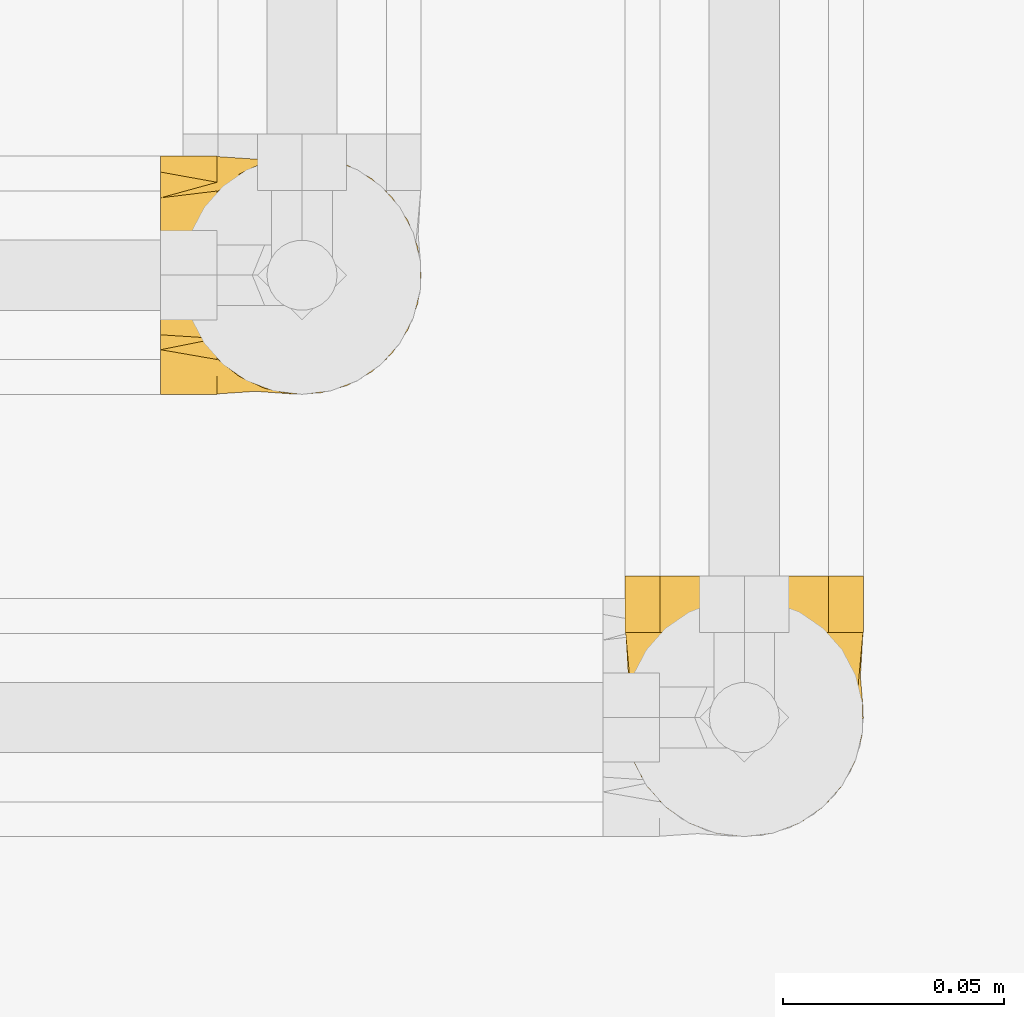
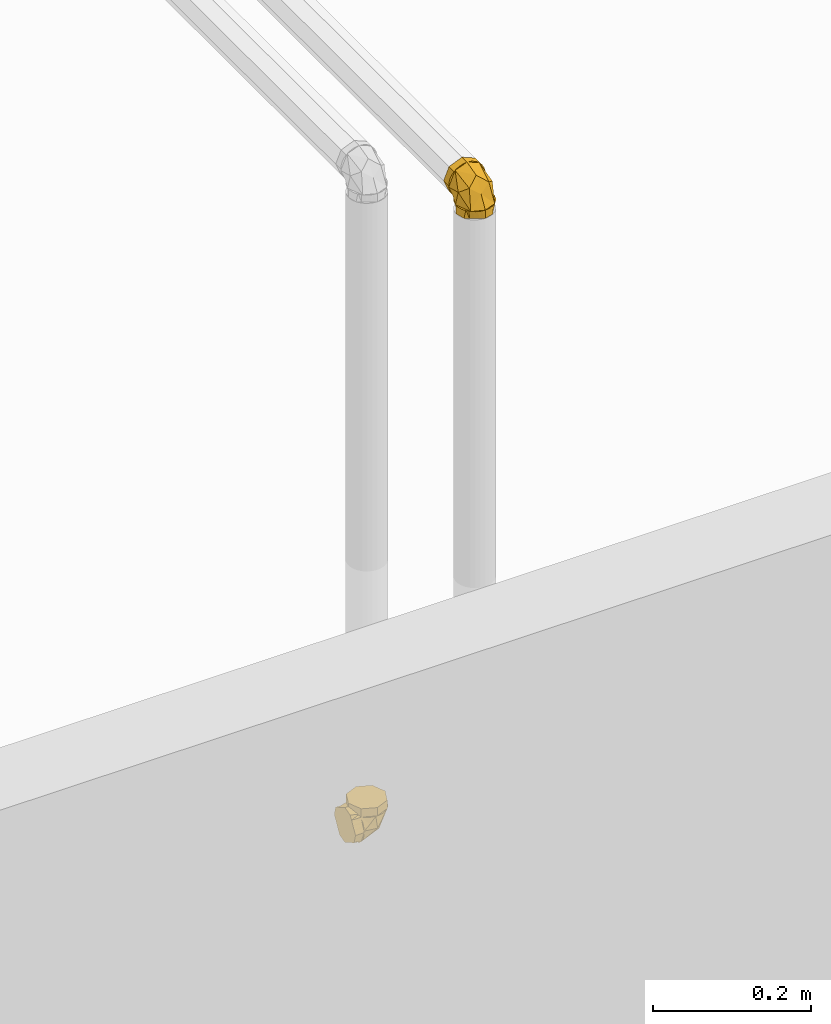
# One storey, part 294 of 652: 2 coverings.
"""IFC2X3 building model written with IfcOpenShell, lengths in millimetres."""

from ifc_helpers import new_model, entity, si_unit, converted_unit, direction, frame, origin, place, context, subcontext, project, spatial, face_set, surface_model, material, type_object, element, save


model = new_model("IFC2X3")

# Units and contexts
model_context = context("Model", 3, precision=0.01, world=frame((0.0, 0.0, 308426.39999999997)), true_north=direction((6.123233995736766e-17, 1.0)))
plan_context = context("Plan", 3, precision=0.01, world=frame((0.0, 0.0, 308426.39999999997)), true_north=direction((6.123233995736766e-17, 1.0)))
body_context = subcontext(model_context, "Body", "Model", "MODEL_VIEW")
ifc_project = project(units=[si_unit("LENGTHUNIT", "METRE", prefix="MILLI"), si_unit("AREAUNIT", "SQUARE_METRE"), si_unit("VOLUMEUNIT", "CUBIC_METRE"), converted_unit("PLANEANGLEUNIT", "DEGREE", entity("IfcPlaneAngleMeasure", 0.017453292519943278), si_unit("PLANEANGLEUNIT", "RADIAN"), dimensions=[0, 0, 0, 0, 0, 0, 0])], contexts=[model_context, plan_context])

# Site, building, storey
site_placement = place(None, origin())
site = spatial("IfcSite", under=ifc_project, at=site_placement, Name="Default", CompositionType="ELEMENT")
building_placement = place(site_placement, origin())
building = spatial("IfcBuilding", under=site, at=building_placement, CompositionType="ELEMENT")
storey_placement = place(building_placement, frame((0.0, 0.0, 1730.6999999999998)))
storey = spatial("IfcBuildingStorey", under=building, at=storey_placement, Name="EG_Produktion_FFB", CompositionType="ELEMENT", Elevation=1730.6999999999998)

# Coverings
ifc_material = material(Name="Dämmung - Armaflex-Schlauch")
covering_type = type_object("IfcCoveringType", Name="Rohrdämmung außen:Armaflex-Schlauch", PredefinedType="INSULATION")
covering_1_placement = place(storey_placement, frame((35468.01624999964, 36553.503785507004, 2671.46722776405)))
element("IfcCovering", 1, at=covering_1_placement, inside=storey, type_object=covering_type, material=ifc_material, Name="Rohrdämmung außen:Armaflex-Schlauch", ObjectType="Rohrdämmung außen:Armaflex-Schlauch", PredefinedType="INSULATION", context=body_context, shape_type="SurfaceModel", body=[
    surface_model("IfcFaceBasedSurfaceModel", [(12.766250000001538, 9.65642195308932, 47.750272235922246), (17.72428799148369, 5.678961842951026, 47.750272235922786), (23.476279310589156, 2.973980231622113, 47.750272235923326), (29.701958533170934, 1.6920879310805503, 47.75027223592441), (36.05468574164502, 1.9046594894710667, 47.75027223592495), (42.18074710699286, 3.5998591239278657, 47.75027223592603), (47.73904933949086, 6.683299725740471, 47.75027223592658), (52.42011143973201, 10.983298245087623, 47.75027223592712), (55.9632963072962, 16.26043484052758, 47.75027223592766), (58.17132276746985, 22.220883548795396, 47.75027223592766), (58.92125000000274, 28.532772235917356, 47.75027223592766), (58.17132276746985, 34.84466092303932, 47.75027223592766), (55.9632963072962, 40.80510963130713, 47.75027223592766), (52.42011143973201, 46.08224622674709, 47.75027223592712), (47.73904933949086, 50.38224474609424, 47.75027223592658), (42.18074710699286, 53.46568534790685, 47.75027223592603), (36.05468574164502, 55.16088498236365, 47.75027223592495), (29.701958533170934, 55.37345654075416, 47.75027223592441), (23.476279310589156, 54.0915642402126, 47.750272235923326), (17.72428799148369, 51.38658262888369, 47.750272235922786), (12.766250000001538, 47.40912251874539, 47.750272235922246), (12.766250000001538, 51.38658262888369, 42.79223424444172), (12.766250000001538, 54.0915642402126, 37.04024292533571), (12.766250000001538, 55.37345654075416, 30.81456370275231), (12.766250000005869, 55.16088498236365, 24.46183649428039), (12.766250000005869, 53.46568534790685, 18.33577512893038), (12.766250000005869, 50.38224474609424, 12.777472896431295), (12.766250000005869, 46.08224622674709, 8.096410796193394), (12.766250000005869, 40.80510963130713, 4.553225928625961), (12.766250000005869, 34.84466092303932, 2.3451994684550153), (12.766250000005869, 28.532772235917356, 1.5952722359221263), (12.766250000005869, 22.220883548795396, 2.3451994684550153), (12.766250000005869, 16.26043484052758, 4.553225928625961), (12.766250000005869, 10.983298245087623, 8.096410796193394), (12.766250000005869, 6.683299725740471, 12.777472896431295), (12.766250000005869, 3.5998591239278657, 18.33577512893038), (12.766250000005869, 1.9046594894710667, 24.46183649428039), (12.766250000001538, 1.6920879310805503, 30.81456370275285), (12.766250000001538, 2.973980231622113, 37.04024292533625), (12.766250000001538, 5.678961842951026, 42.79223424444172), (21.447745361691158, 2.2765184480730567, 37.80740068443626), (52.73653320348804, 28.533055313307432, 24.672737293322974), (33.565610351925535, 3.599693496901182, 26.951086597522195), (41.06050170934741, 6.336735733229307, 47.750398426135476), (31.030881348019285, 28.533055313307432, 12.139781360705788), (41.84184936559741, 14.285087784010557, 17.332487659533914), (12.766879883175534, 6.336735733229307, 19.45561388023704), (41.84184936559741, 42.78102284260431, 17.332487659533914), (33.565610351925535, 53.46641712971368, 26.951086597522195), (21.447745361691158, 54.78959217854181, 37.80740068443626), (12.766879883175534, 50.72704945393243, 19.45561388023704), (41.06050170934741, 50.72704945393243, 47.750398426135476), (58.92125000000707, 28.532772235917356, 60.5165222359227), (56.94879722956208, 33.29469446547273, 60.51652223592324), (54.976344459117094, 38.05661669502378, 60.51652223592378), (53.003891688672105, 42.818538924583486, 60.51652223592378), (51.03143891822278, 47.5804611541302, 60.51652223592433), (46.26951668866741, 49.552913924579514, 60.51652223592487), (41.50759445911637, 51.5253666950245, 60.51652223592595), (36.74567222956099, 53.497819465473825, 60.51652223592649), (31.983750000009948, 55.47027223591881, 60.516522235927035), (27.22182777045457, 53.497819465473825, 60.516522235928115), (22.459905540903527, 51.5253666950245, 60.516522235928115), (17.697983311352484, 49.552913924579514, 60.516522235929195), (12.936061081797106, 47.5804611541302, 60.51652223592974), (10.963608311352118, 42.81853892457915, 60.51652223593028), (8.991155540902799, 38.05661669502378, 60.51652223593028), (7.018702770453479, 33.29469446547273, 60.51652223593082), (5.046250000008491, 28.532772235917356, 60.51652223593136), (7.018702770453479, 23.770850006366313, 60.51652223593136), (8.991155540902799, 19.008927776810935, 60.51652223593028), (10.963608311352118, 14.247005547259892, 60.51652223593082), (12.936061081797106, 9.485083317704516, 60.51652223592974), (17.697983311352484, 7.512630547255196, 60.516522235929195), (22.459905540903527, 5.540177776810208, 60.516522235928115), (27.22182777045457, 3.567725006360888, 60.516522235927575), (31.983750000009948, 1.5952722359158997, 60.516522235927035), (36.74567222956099, 3.5677250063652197, 60.51652223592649), (41.50759445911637, 5.540177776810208, 60.51652223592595), (46.26951668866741, 7.512630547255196, 60.51652223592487), (51.03143891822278, 9.485083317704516, 60.51652223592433), (53.00389168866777, 14.247005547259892, 60.51652223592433), (54.976344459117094, 19.008927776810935, 60.51652223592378), (56.948797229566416, 23.77085000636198, 60.5165222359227), (58.92125000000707, 28.532772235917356, 47.75027223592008), (56.94879722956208, 23.770850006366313, 47.750272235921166), (54.976344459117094, 19.008927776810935, 47.750272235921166), (53.00389168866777, 14.24700554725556, 47.750272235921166), (51.03143891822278, 9.485083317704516, 47.750272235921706), (45.26304951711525, 7.095738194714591, 47.750272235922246), (39.49466011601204, 4.706393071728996, 47.750272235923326), (31.983750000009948, 1.5952722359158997, 47.75027223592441), (27.22182777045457, 3.567725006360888, 47.75027223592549), (22.459905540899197, 5.540177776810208, 47.75027223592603), (17.69798331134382, 7.512630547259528, 47.75027223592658), (12.936061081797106, 9.485083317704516, 47.75027223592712), (10.546715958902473, 15.253472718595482, 47.7502722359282), (8.157370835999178, 21.021862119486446, 47.7502722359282), (5.046250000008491, 28.532772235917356, 47.75027223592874), (7.01870277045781, 33.2946944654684, 47.75027223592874), (8.991155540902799, 38.05661669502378, 47.7502722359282), (10.963608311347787, 42.81853892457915, 47.75027223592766), (12.936061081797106, 47.5804611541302, 47.75027223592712), (18.704450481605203, 49.96980627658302, 47.75027223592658), (24.472839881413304, 52.359151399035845, 47.75027223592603), (31.983750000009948, 55.47027223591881, 47.75027223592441), (36.74567222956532, 53.497819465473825, 47.75027223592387), (41.50759445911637, 51.5253666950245, 47.750272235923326), (46.26951668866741, 49.552913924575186, 47.750272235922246), (51.03143891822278, 47.5804611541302, 47.750272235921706), (53.420784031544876, 41.81207177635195, 47.750272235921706), (55.810129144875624, 36.0436823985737, 47.750272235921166), (0.0, 28.532772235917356, 1.5952722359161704), (0.0, 22.700632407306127, 4.962459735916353), (0.0, 16.868492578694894, 8.329647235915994), (0.0, 11.036352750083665, 11.696834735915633), (0.0, 5.204212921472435, 15.064022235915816), (0.0, 3.3997425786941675, 21.798397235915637), (0.0, 1.5952722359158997, 28.532772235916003), (0.0, 4.962459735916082, 34.36491206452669), (0.0, 8.329647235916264, 40.19705189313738), (0.0, 11.696834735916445, 46.02919172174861), (0.0, 15.064022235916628, 51.861331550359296), (0.0, 21.79839723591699, 53.66580189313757), (0.0, 28.532772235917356, 55.470272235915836), (0.0, 34.36491206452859, 52.10308473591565), (0.0, 40.197051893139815, 48.73589723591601), (0.0, 46.02919172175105, 45.36870973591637), (0.0, 51.86133155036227, 42.00152223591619), (0.0, 53.66580189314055, 35.26714723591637), (0.0, 55.47027223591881, 28.532772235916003), (0.0, 52.10308473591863, 22.700632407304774), (0.0, 48.73589723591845, 16.868492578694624), (0.0, 45.368709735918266, 11.036352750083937), (0.0, 42.00152223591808, 5.204212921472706), (0.0, 35.26714723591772, 3.3997425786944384), (12.766250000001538, 28.532772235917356, 1.5952722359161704), (12.766250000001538, 33.29469446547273, 3.567725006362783), (12.766250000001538, 38.05661669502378, 5.540177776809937), (12.766249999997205, 42.81853892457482, 7.512630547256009), (12.766250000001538, 47.5804611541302, 9.485083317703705), (12.766250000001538, 49.552913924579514, 14.247005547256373), (12.766250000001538, 51.5253666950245, 19.008927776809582), (12.766250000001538, 53.497819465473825, 23.770850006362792), (12.766250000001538, 55.47027223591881, 28.532772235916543), (12.766250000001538, 53.497819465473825, 33.29469446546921), (12.766250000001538, 51.5253666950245, 38.05661669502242), (12.766250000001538, 49.552913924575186, 42.818538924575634), (12.766250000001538, 47.5804611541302, 47.58046115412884), (12.766250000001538, 42.81853892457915, 49.552913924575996), (12.766250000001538, 38.05661669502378, 51.525366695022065), (12.766250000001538, 33.29469446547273, 53.49781946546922), (12.766250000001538, 28.532772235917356, 55.470272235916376), (12.766250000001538, 23.77085000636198, 53.49781946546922), (12.766250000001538, 19.008927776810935, 51.525366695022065), (12.766250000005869, 14.247005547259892, 49.552913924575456), (12.766250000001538, 9.485083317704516, 47.58046115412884), (12.766250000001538, 7.512630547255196, 42.818538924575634), (12.766250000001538, 5.540177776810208, 38.05661669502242), (12.766250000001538, 3.5677250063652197, 33.29469446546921), (12.766250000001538, 1.5952722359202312, 28.532772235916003), (12.766250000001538, 3.567725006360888, 23.770850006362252), (12.766250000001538, 5.540177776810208, 19.008927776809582), (12.766249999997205, 7.512630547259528, 14.247005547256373), (12.766250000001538, 9.485083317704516, 9.485083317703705), (12.766250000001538, 14.247005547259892, 7.51263054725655), (12.766250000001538, 19.008927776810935, 5.540177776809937), (12.766249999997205, 23.77085000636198, 3.567725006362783)], [face_set([[[0, 1, 2, 3, 4, 5, 6, 7, 8, 9, 10, 11, 12, 13, 14, 15, 16, 17, 18, 19]], [[20, 21, 22, 23, 24, 25, 26, 27, 28, 29, 30, 31, 32, 33, 34, 35, 36, 37, 38, 39]], [[0, 40, 3]], [[10, 7, 41]], [[37, 42, 40]], [[42, 7, 43]], [[37, 40, 0]], [[3, 40, 42]], [[44, 41, 45]], [[7, 45, 41]], [[33, 30, 44]], [[44, 45, 33]], [[42, 33, 45]], [[42, 37, 46]], [[7, 42, 45]], [[43, 3, 42]], [[46, 33, 42]], [[13, 10, 41]], [[27, 47, 44]], [[44, 30, 27]], [[48, 47, 27]], [[49, 48, 23]], [[48, 50, 23]], [[44, 47, 41]], [[20, 49, 23]], [[47, 48, 13]], [[17, 49, 20]], [[41, 47, 13]], [[48, 17, 51]], [[48, 27, 50]], [[17, 48, 49]], [[51, 13, 48]]]), face_set([[[52, 53, 54, 55, 56, 57, 58, 59, 60, 61, 62, 63, 64, 65, 66, 67, 68, 69, 70, 71, 72, 73, 74, 75, 76, 77, 78, 79, 80, 81, 82, 83]], [[84, 85, 86, 87, 88, 89, 90, 91, 92, 93, 94, 95, 96, 97, 98, 99, 100, 101, 102, 103, 104, 105, 106, 107, 108, 109, 110, 111]], [[111, 110, 109, 56, 55, 54, 53, 52, 84]], [[56, 109, 108, 107, 106, 105, 60, 59, 58, 57]], [[104, 103, 102, 64, 63, 62, 61, 60, 105]], [[64, 102, 101, 100, 99, 98, 68, 67, 66, 65]], [[97, 96, 95, 72, 71, 70, 69, 68, 98]], [[72, 95, 94, 93, 92, 91, 76, 75, 74, 73]], [[90, 89, 88, 80, 79, 78, 77, 76, 91]], [[80, 88, 87, 86, 85, 84, 52, 83, 82, 81]]]), face_set([[[112, 113, 114, 115, 116, 117, 118, 119, 120, 121, 122, 123, 124, 125, 126, 127, 128, 129, 130, 131, 132, 133, 134, 135]], [[136, 137, 138, 139, 140, 141, 142, 143, 144, 145, 146, 147, 148, 149, 150, 151, 152, 153, 154, 155, 156, 157, 158, 159, 160, 161, 162, 163, 164, 165, 166, 167]], [[155, 121, 156]], [[118, 159, 119]], [[159, 158, 119]], [[123, 154, 153]], [[153, 152, 124]], [[121, 155, 122]], [[120, 158, 157]], [[118, 160, 159]], [[158, 120, 119]], [[124, 123, 153]], [[157, 156, 121]], [[155, 154, 122]], [[123, 122, 154]], [[120, 157, 121]], [[163, 115, 164]], [[112, 167, 113]], [[167, 166, 113]], [[117, 162, 161]], [[161, 160, 118]], [[115, 163, 116]], [[114, 166, 165]], [[112, 136, 167]], [[166, 114, 113]], [[118, 117, 161]], [[165, 164, 115]], [[163, 162, 116]], [[117, 116, 162]], [[114, 165, 115]], [[139, 133, 140]], [[130, 143, 131]], [[143, 142, 131]], [[135, 138, 137]], [[137, 136, 112]], [[133, 139, 134]], [[132, 142, 141]], [[130, 144, 143]], [[142, 132, 131]], [[112, 135, 137]], [[141, 140, 133]], [[139, 138, 134]], [[135, 134, 138]], [[132, 141, 133]], [[147, 127, 148]], [[124, 151, 125]], [[151, 150, 125]], [[129, 146, 145]], [[145, 144, 130]], [[127, 147, 128]], [[126, 150, 149]], [[124, 152, 151]], [[150, 126, 125]], [[130, 129, 145]], [[149, 148, 127]], [[147, 146, 128]], [[129, 128, 146]], [[126, 149, 127]]])]),
])
covering_2_placement = place(storey_placement, frame((35571.46722776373, 36453.50378550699, 3668.016249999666)))
element("IfcCovering", 2, at=covering_2_placement, inside=storey, type_object=covering_type, material=ifc_material, Name="Rohrdämmung außen:Armaflex-Schlauch", ObjectType="Rohrdämmung außen:Armaflex-Schlauch", PredefinedType="INSULATION", context=body_context, shape_type="SurfaceModel", body=[
    surface_model("IfcFaceBasedSurfaceModel", [(9.65642195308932, 47.75027223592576, 12.766249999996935), (51.38658262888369, 47.75027223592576, 17.724287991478), (54.0915642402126, 47.75027223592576, 23.47627931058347), (55.37345654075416, 47.75027223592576, 29.70195853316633), (55.16088498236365, 47.7502722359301, 36.05468574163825), (53.46568534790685, 47.7502722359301, 42.180747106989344), (50.38224474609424, 47.7502722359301, 47.739049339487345), (46.08224622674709, 47.7502722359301, 52.42011143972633), (40.80510963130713, 47.7502722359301, 55.96329630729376), (34.84466092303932, 47.7502722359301, 58.17132276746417), (28.532772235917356, 47.7502722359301, 58.92124999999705), (22.220883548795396, 47.7502722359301, 58.17132276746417), (16.26043484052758, 47.7502722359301, 55.96329630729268), (10.983298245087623, 47.7502722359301, 52.42011143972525), (6.683299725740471, 47.7502722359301, 47.739049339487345), (3.5998591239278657, 47.7502722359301, 42.180747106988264), (1.9046594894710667, 47.7502722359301, 36.05468574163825), (1.6920879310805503, 47.75027223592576, 29.70195853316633), (2.973980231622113, 47.75027223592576, 23.47627931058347), (5.678961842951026, 47.75027223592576, 17.72428799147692), (47.40912251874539, 47.75027223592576, 12.766249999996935), (51.38658262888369, 42.79223424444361, 12.766249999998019), (54.0915642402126, 37.04024292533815, 12.766249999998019), (55.37345654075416, 30.81456370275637, 12.7662499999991), (55.16088498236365, 24.461836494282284, 12.766250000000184), (53.46568534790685, 18.33577512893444, 12.766250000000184), (50.38224474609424, 12.77747289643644, 12.766250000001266), (46.08224622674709, 8.09641079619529, 12.766250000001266), (40.80510963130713, 4.553225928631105, 12.76625000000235), (34.84466092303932, 2.3451994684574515, 12.76625000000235), (28.532772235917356, 1.5952722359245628, 12.76625000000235), (22.220883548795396, 2.3451994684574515, 12.76625000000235), (16.26043484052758, 4.553225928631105, 12.76625000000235), (10.983298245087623, 8.09641079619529, 12.766250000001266), (6.683299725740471, 12.77747289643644, 12.766250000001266), (3.5998591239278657, 18.33577512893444, 12.766250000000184), (1.9046594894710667, 24.461836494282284, 12.766250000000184), (1.6920879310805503, 30.81456370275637, 12.7662499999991), (2.973980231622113, 37.04024292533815, 12.766249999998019), (5.678961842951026, 42.79223424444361, 12.766249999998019), (2.2753442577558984, 37.80836048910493, 21.447095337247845), (28.531881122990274, 24.671953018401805, 52.73762725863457), (6.337886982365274, 47.7496141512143, 41.06101440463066), (3.600844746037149, 26.950883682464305, 33.5655416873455), (14.286239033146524, 17.332866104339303, 41.84178070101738), (28.531881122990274, 12.140159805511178, 31.030231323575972), (6.337886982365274, 19.455992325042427, 12.766229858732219), (42.77984865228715, 17.332866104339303, 41.84178070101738), (53.465242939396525, 26.950883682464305, 33.5655416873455), (54.78841798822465, 37.80836048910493, 21.447095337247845), (50.7282007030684, 19.455992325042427, 12.766229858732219), (50.7282007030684, 47.7496141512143, 41.06101440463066), (28.532772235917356, 60.51652223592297, 58.92125000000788), (33.2946944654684, 60.51652223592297, 56.94879722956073), (38.05661669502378, 60.51652223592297, 54.97634445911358), (42.81853892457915, 60.51652223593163, 53.0038916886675), (47.5804611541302, 60.51652223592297, 51.03143891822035), (49.552913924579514, 60.516522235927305, 46.26951668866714), (51.5253666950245, 60.516522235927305, 41.50759445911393), (53.49781946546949, 60.516522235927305, 36.74567222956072), (55.47027223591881, 60.516522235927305, 31.98375000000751), (53.49781946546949, 60.51652223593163, 27.2218277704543), (51.5253666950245, 60.51652223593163, 22.45990554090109), (49.552913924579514, 60.51652223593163, 17.69798331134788), (47.5804611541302, 60.51652223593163, 12.936061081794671), (42.81853892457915, 60.51652223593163, 10.963608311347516), (38.05661669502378, 60.51652223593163, 8.991155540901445), (33.2946944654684, 60.51652223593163, 7.018702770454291), (28.532772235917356, 60.51652223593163, 5.046250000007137), (23.770850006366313, 60.51652223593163, 7.018702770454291), (19.008927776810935, 60.51652223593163, 8.991155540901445), (14.247005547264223, 60.51652223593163, 10.9636083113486), (9.485083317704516, 60.51652223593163, 12.936061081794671), (7.512630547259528, 60.51652223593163, 17.69798331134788), (5.540177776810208, 60.51652223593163, 22.45990554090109), (3.567725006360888, 60.51652223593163, 27.2218277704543), (1.5952722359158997, 60.516522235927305, 31.98375000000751), (3.5677250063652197, 60.51652223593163, 36.74567222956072), (5.540177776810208, 60.516522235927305, 41.50759445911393), (7.512630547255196, 60.51652223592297, 46.26951668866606), (9.485083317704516, 60.51652223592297, 51.03143891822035), (14.24700554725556, 60.516522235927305, 53.0038916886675), (19.008927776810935, 60.51652223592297, 54.97634445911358), (23.770850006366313, 60.51652223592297, 56.94879722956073), (28.532772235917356, 47.750272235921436, 58.92125000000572), (23.770850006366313, 47.750272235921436, 56.94879722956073), (19.008927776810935, 47.750272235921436, 54.97634445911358), (14.24700554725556, 47.750272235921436, 53.00389168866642), (9.485083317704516, 47.750272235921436, 51.031438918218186), (7.095738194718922, 47.750272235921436, 45.26304951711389), (4.706393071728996, 47.750272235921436, 39.494660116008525), (1.5952722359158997, 47.75027223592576, 31.983750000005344), (3.567725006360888, 47.75027223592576, 27.221827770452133), (5.540177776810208, 47.7502722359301, 22.459905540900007), (7.512630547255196, 47.7502722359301, 17.697983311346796), (9.485083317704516, 47.7502722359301, 12.936061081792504), (15.25347271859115, 47.7502722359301, 10.546715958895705), (21.021862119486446, 47.7502722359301, 8.157370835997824), (28.532772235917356, 47.7502722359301, 5.046250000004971), (33.29469446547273, 47.7502722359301, 7.018702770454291), (38.05661669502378, 47.7502722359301, 8.991155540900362), (42.81853892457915, 47.7502722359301, 10.963608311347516), (47.5804611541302, 47.7502722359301, 12.936061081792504), (49.96980627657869, 47.7502722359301, 18.704450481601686), (52.35915139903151, 47.7502722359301, 24.472839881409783), (55.47027223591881, 47.75027223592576, 31.983750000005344), (53.49781946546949, 47.75027223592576, 36.74567222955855), (51.5253666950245, 47.750272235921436, 41.507594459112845), (49.552913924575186, 47.750272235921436, 46.26951668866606), (47.5804611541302, 47.750272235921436, 51.031438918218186), (41.81207177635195, 47.750272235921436, 53.42078403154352), (36.043682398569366, 47.750272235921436, 55.81012914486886), (28.532772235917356, 1.5952722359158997, 0.0), (22.700632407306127, 4.962459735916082, 0.0), (16.868492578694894, 8.329647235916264, 0.0), (11.036352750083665, 11.696834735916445, 0.0), (5.204212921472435, 15.064022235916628, 0.0), (3.3997425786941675, 21.79839723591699, 0.0), (1.5952722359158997, 28.532772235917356, 0.0), (4.962459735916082, 34.36491206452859, 0.0), (8.329647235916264, 40.197051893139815, 0.0), (11.696834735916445, 46.02919172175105, 0.0), (15.064022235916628, 51.86133155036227, 0.0), (21.79839723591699, 53.66580189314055, 0.0), (28.532772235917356, 55.47027223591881, 0.0), (34.36491206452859, 52.10308473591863, 0.0), (40.197051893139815, 48.73589723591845, 0.0), (46.02919172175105, 45.368709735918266, 0.0), (51.86133155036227, 42.00152223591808, 0.0), (53.66580189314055, 35.26714723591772, 0.0), (55.47027223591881, 28.532772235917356, 0.0), (52.10308473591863, 22.700632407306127, 0.0), (48.73589723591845, 16.868492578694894, 0.0), (45.368709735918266, 11.036352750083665, 0.0), (42.00152223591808, 5.204212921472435, 0.0), (35.26714723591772, 3.3997425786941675, 0.0), (28.532772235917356, 1.5952722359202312, 12.7662499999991), (33.29469446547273, 3.5677250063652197, 12.7662499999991), (38.05661669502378, 5.540177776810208, 12.7662499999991), (42.81853892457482, 7.512630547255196, 12.766249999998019), (47.5804611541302, 9.485083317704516, 12.7662499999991), (49.552913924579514, 14.247005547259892, 12.7662499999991), (51.5253666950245, 19.008927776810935, 12.7662499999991), (53.49781946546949, 23.77085000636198, 12.7662499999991), (55.47027223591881, 28.532772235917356, 12.7662499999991), (53.49781946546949, 33.2946944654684, 12.7662499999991), (51.5253666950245, 38.05661669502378, 12.7662499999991), (49.552913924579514, 42.81853892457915, 12.7662499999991), (47.5804611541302, 47.5804611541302, 12.7662499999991), (42.81853892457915, 49.552913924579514, 12.7662499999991), (38.05661669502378, 51.5253666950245, 12.7662499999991), (33.2946944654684, 53.49781946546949, 12.7662499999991), (28.532772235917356, 55.47027223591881, 12.7662499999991), (23.770850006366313, 53.497819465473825, 12.7662499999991), (19.008927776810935, 51.5253666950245, 12.7662499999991), (14.247005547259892, 49.552913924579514, 12.7662499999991), (9.485083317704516, 47.5804611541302, 12.7662499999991), (7.512630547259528, 42.81853892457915, 12.7662499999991), (5.540177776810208, 38.05661669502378, 12.7662499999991), (3.5677250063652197, 33.294694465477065, 12.7662499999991), (1.5952722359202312, 28.532772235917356, 12.7662499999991), (3.567725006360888, 23.77085000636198, 12.7662499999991), (5.540177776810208, 19.008927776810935, 12.7662499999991), (7.512630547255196, 14.24700554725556, 12.766249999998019), (9.485083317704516, 9.485083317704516, 12.7662499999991), (14.24700554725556, 7.512630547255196, 12.7662499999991), (19.008927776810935, 5.540177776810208, 12.7662499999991), (23.770850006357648, 3.567725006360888, 12.766249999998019)], [face_set([[[0, 1, 2, 3, 4, 5, 6, 7, 8, 9, 10, 11, 12, 13, 14, 15, 16, 17, 18, 19]], [[20, 21, 22, 23, 24, 25, 26, 27, 28, 29, 30, 31, 32, 33, 34, 35, 36, 37, 38, 39]], [[0, 40, 17]], [[10, 13, 41]], [[42, 17, 43, 13]], [[40, 43, 17]], [[37, 40, 0]], [[13, 43, 44]], [[45, 41, 44]], [[13, 44, 41]], [[33, 30, 45]], [[45, 44, 33]], [[43, 33, 44]], [[43, 37, 46]], [[37, 43, 40]], [[46, 33, 43]], [[7, 10, 41]], [[27, 47, 45]], [[45, 30, 27]], [[48, 47, 27]], [[49, 48, 23]], [[48, 50, 23]], [[45, 47, 41]], [[20, 49, 23]], [[47, 48, 7]], [[3, 49, 20]], [[41, 47, 7]], [[48, 3, 51, 7]], [[48, 27, 50]], [[3, 48, 49]]]), face_set([[[52, 53, 54, 55, 56, 57, 58, 59, 60, 61, 62, 63, 64, 65, 66, 67, 68, 69, 70, 71, 72, 73, 74, 75, 76, 77, 78, 79, 80, 81, 82, 83]], [[84, 85, 86, 87, 88, 89, 90, 91, 92, 93, 94, 95, 96, 97, 98, 99, 100, 101, 102, 103, 104, 105, 106, 107, 108, 109, 110, 111]], [[111, 110, 109, 56, 55, 54, 53, 52, 84]], [[56, 109, 108, 107, 106, 105, 60, 59, 58, 57]], [[104, 103, 102, 64, 63, 62, 61, 60, 105]], [[64, 102, 101, 100, 99, 98, 68, 67, 66, 65]], [[97, 96, 95, 72, 71, 70, 69, 68, 98]], [[72, 95, 94, 93, 92, 91, 76, 75, 74, 73]], [[90, 89, 88, 80, 79, 78, 77, 76, 91]], [[80, 88, 87, 86, 85, 84, 52, 83, 82, 81]]]), face_set([[[112, 113, 114, 115, 116, 117, 118, 119, 120, 121, 122, 123, 124, 125, 126, 127, 128, 129, 130, 131, 132, 133, 134, 135]], [[136, 137, 138, 139, 140, 141, 142, 143, 144, 145, 146, 147, 148, 149, 150, 151, 152, 153, 154, 155, 156, 157, 158, 159, 160, 161, 162, 163, 164, 165, 166, 167]], [[155, 121, 156]], [[118, 159, 119]], [[159, 158, 119]], [[123, 154, 153]], [[153, 152, 124]], [[121, 155, 122]], [[120, 158, 157]], [[118, 160, 159]], [[158, 120, 119]], [[124, 123, 153]], [[157, 156, 121]], [[155, 154, 122]], [[123, 122, 154]], [[120, 157, 121]], [[163, 115, 164]], [[112, 167, 113]], [[167, 166, 113]], [[117, 162, 161]], [[161, 160, 118]], [[115, 163, 116]], [[114, 166, 165]], [[112, 136, 167]], [[166, 114, 113]], [[118, 117, 161]], [[165, 164, 115]], [[163, 162, 116]], [[117, 116, 162]], [[114, 165, 115]], [[139, 133, 140]], [[130, 143, 131]], [[143, 142, 131]], [[135, 138, 137]], [[137, 136, 112]], [[133, 139, 134]], [[132, 142, 141]], [[130, 144, 143]], [[142, 132, 131]], [[112, 135, 137]], [[141, 140, 133]], [[139, 138, 134]], [[135, 134, 138]], [[132, 141, 133]], [[147, 127, 148]], [[124, 151, 125]], [[151, 150, 125]], [[129, 146, 145]], [[145, 144, 130]], [[127, 147, 128]], [[126, 150, 149]], [[124, 152, 151]], [[150, 126, 125]], [[130, 129, 145]], [[149, 148, 127]], [[147, 146, 128]], [[129, 128, 146]], [[126, 149, 127]]])]),
])

save(model, "model.ifc")
